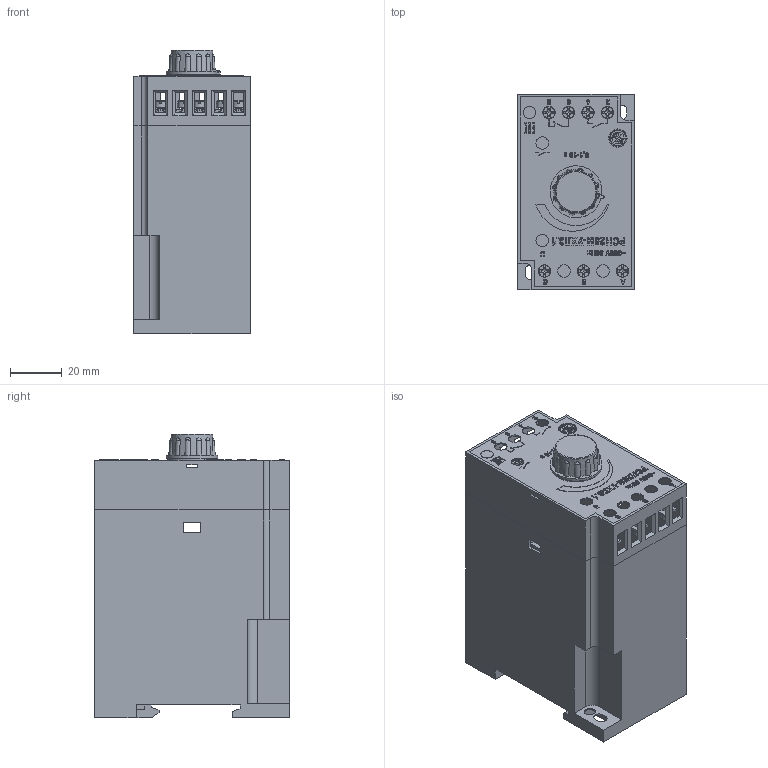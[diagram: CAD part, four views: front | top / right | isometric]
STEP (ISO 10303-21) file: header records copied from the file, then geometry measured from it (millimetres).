
FILE_DESCRIPTION(('STEP AP214'), '1');
FILE_NAME('ﾐﾑﾍ25ﾌ', '', ('UNSPECIFIED'), ('UNSPECIFIED'), 'ASCON STEP Converter 1.6', 'ASCON Math Kernel', '');
FILE_SCHEMA(('AUTOMOTIVE_DESIGN { 1 0 10303 214 3 1 1}'));
Length unit declared in the file: millimetre
Products named in the file (10): 襠窏.301612.; 襠窏.753711.051; 襠窏.753512.139
Assembly tree (15 placements, depth 3):
  (unnamed)
    (unnamed)
    (unnamed)
    襠窏.301612.  x7
      (unnamed)
      (unnamed)
    (unnamed)
    襠窏.753711.051
    (unnamed)
    襠窏.753512.139
Bounding box: 45 x 75 x 109.2 mm (x, y, z)
Volume: 31772.6 mm3; surface area: 63722.7 mm2
Topology: 20 solids, 20 shells, 2693 faces, 7301 edges, 4730 vertices
Faces by surface type: cylinder 1298, plane 1145, cone 115, bspline 99, torus 36
Full cylindrical faces by diameter (mm): 2.3 x7, 3 x7, 4.2 x2, 4.8 x12, 5.6 x1, 8.05 x1, 18.8 x1
Entity records: 92671 total; most frequent: CARTESIAN_POINT 18996, DIRECTION 12353, ORIENTED_EDGE 11760, EDGE_CURVE 5880, AXIS2_PLACEMENT_3D 4560, VERTEX_POINT 3914, LINE 3233, VECTOR 3233
